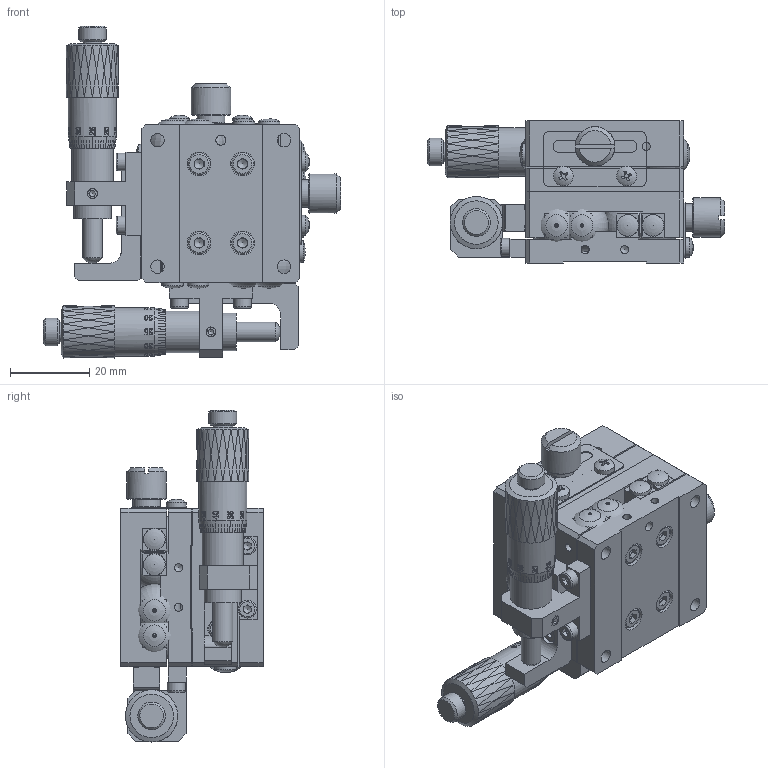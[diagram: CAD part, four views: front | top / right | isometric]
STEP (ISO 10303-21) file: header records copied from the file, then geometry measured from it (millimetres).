
FILE_DESCRIPTION (( 'STEP AP203' ), '1' );
FILE_NAME ('BPTB40.STEP', '2024-07-24T07:00:11', ( 'Windows User' ), ( 'P R C' ), 'SwSTEP 2.0', 'SolidWorks 2024', '' );
FILE_SCHEMA (( 'CONFIG_CONTROL_DESIGN' ));
Products named in the file (1): BPTB40
Bounding box: 75.2 x 36 x 84 mm (x, y, z)
Volume: 54398.1 mm3; surface area: 57722.7 mm2
Topology: 58 solids, 58 shells, 2882 faces, 7222 edges, 4668 vertices
Faces by surface type: plane 1182, bspline 790, cylinder 520, cone 344, torus 40, sphere 6
Full cylindrical faces by diameter (mm): 2 x20, 2.05 x30, 2.5 x40, 2.55 x16, 2.8 x4, 2.95 x18, 3 x22, 3.1 x4, 3.4 x24, 4.4 x16, 4.5 x8, 5 x14, 5.5 x16, 6 x24, 7 x4, 8.5 x2, 9.5 x4, 10 x2, 10.5 x2, 12.2 x2
Entity records: 145477 total; most frequent: CARTESIAN_POINT 87125, ORIENTED_EDGE 13104, DIRECTION 8864, EDGE_CURVE 6552, VERTEX_POINT 4462, EDGE_LOOP 3802, AXIS2_PLACEMENT_3D 3285, FACE_OUTER_BOUND 3148
